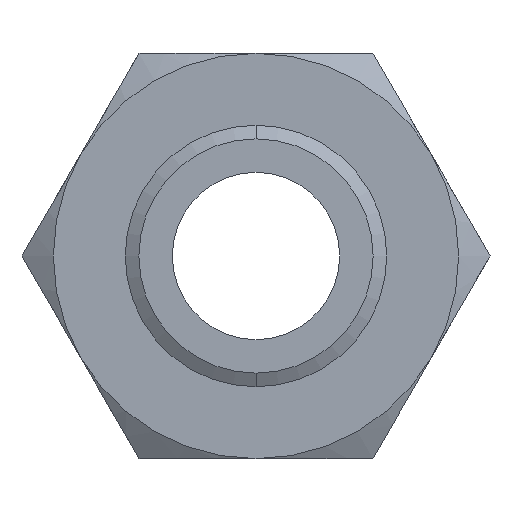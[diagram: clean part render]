
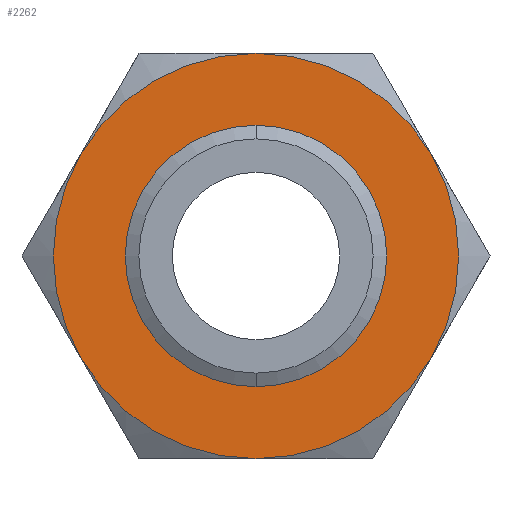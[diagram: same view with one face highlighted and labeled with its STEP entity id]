
A CAD part, front view. The second image highlights one B-rep face of the part: STEP entity #2262.
In plain terms, the highlighted planar face has unit normal (0, -1, 0).
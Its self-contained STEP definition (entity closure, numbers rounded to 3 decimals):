
#887 = CARTESIAN_POINT ( 'NONE',  ( 0., 0., 0. ) ) ;
#888 = AXIS2_PLACEMENT_3D ( 'NONE', #887, #953, #952 ) ;
#889 = CIRCLE ( 'NONE', #888, 44.804 ) ;
#890 = DIRECTION ( 'NONE',  ( 0., 0., 1. ) ) ;
#891 = DIRECTION ( 'NONE',  ( 0., 1., 0. ) ) ;
#892 = CARTESIAN_POINT ( 'NONE',  ( 0., 0., 0. ) ) ;
#893 = AXIS2_PLACEMENT_3D ( 'NONE', #892, #891, #890 ) ;
#894 = CIRCLE ( 'NONE', #893, 77.5 ) ;
#923 = DIRECTION ( 'NONE',  ( 0., 0., -1. ) ) ;
#924 = DIRECTION ( 'NONE',  ( 0., -1., 0. ) ) ;
#925 = CARTESIAN_POINT ( 'NONE',  ( 0., 0., 0. ) ) ;
#926 = AXIS2_PLACEMENT_3D ( 'NONE', #925, #924, #923 ) ;
#927 = CIRCLE ( 'NONE', #926, 44.804 ) ;
#928 = CARTESIAN_POINT ( 'NONE',  ( 0., 0., 44.804 ) ) ;
#952 = DIRECTION ( 'NONE',  ( 0., 0., -1. ) ) ;
#953 = DIRECTION ( 'NONE',  ( 0., -1., 0. ) ) ;
#984 = CARTESIAN_POINT ( 'NONE',  ( 0., 0., -44.804 ) ) ;
#1296 = CARTESIAN_POINT ( 'NONE',  ( 67.117, 0., 38.75 ) ) ;
#1297 = CARTESIAN_POINT ( 'NONE',  ( 0., 0., 77.5 ) ) ;
#1333 = CARTESIAN_POINT ( 'NONE',  ( -67.117, 0., -38.75 ) ) ;
#1339 = DIRECTION ( 'NONE',  ( 0., 0., 1. ) ) ;
#1340 = DIRECTION ( 'NONE',  ( 0., 1., 0. ) ) ;
#1341 = CARTESIAN_POINT ( 'NONE',  ( 0., 0., 0. ) ) ;
#1342 = AXIS2_PLACEMENT_3D ( 'NONE', #1341, #1340, #1339 ) ;
#1343 = CIRCLE ( 'NONE', #1342, 77.5 ) ;
#1344 = CARTESIAN_POINT ( 'NONE',  ( -67.117, 0., 38.75 ) ) ;
#1349 = DIRECTION ( 'NONE',  ( 0., 0., 1. ) ) ;
#1350 = DIRECTION ( 'NONE',  ( 0., 1., 0. ) ) ;
#1351 = CARTESIAN_POINT ( 'NONE',  ( 44.745, 0., -77.5 ) ) ;
#1353 = AXIS2_PLACEMENT_3D ( 'NONE', #1351, #1350, #1349 ) ;
#1354 = PLANE ( 'NONE',  #1353 ) ;
#1355 = FACE_BOUND ( 'NONE', #2045, .T. ) ;
#1356 = FACE_OUTER_BOUND ( 'NONE', #2264, .T. ) ;
#1368 = DIRECTION ( 'NONE',  ( 0., 0., 1. ) ) ;
#1369 = DIRECTION ( 'NONE',  ( 0., 1., 0. ) ) ;
#1370 = CARTESIAN_POINT ( 'NONE',  ( 0., 0., 0. ) ) ;
#1371 = AXIS2_PLACEMENT_3D ( 'NONE', #1370, #1369, #1368 ) ;
#1372 = CIRCLE ( 'NONE', #1371, 77.5 ) ;
#1373 = DIRECTION ( 'NONE',  ( 0., 0., 1. ) ) ;
#1374 = DIRECTION ( 'NONE',  ( 0., 1., 0. ) ) ;
#1375 = CARTESIAN_POINT ( 'NONE',  ( 0., 0., 0. ) ) ;
#1376 = AXIS2_PLACEMENT_3D ( 'NONE', #1375, #1374, #1373 ) ;
#1377 = CIRCLE ( 'NONE', #1376, 77.5 ) ;
#1378 = DIRECTION ( 'NONE',  ( 0., 0., 1. ) ) ;
#1379 = DIRECTION ( 'NONE',  ( 0., 1., 0. ) ) ;
#1380 = CARTESIAN_POINT ( 'NONE',  ( 0., 0., 0. ) ) ;
#1381 = AXIS2_PLACEMENT_3D ( 'NONE', #1380, #1379, #1378 ) ;
#1382 = CIRCLE ( 'NONE', #1381, 77.5 ) ;
#1383 = DIRECTION ( 'NONE',  ( 0., 0., 1. ) ) ;
#1384 = DIRECTION ( 'NONE',  ( 0., 1., 0. ) ) ;
#1385 = CARTESIAN_POINT ( 'NONE',  ( 0., 0., 0. ) ) ;
#1386 = AXIS2_PLACEMENT_3D ( 'NONE', #1385, #1384, #1383 ) ;
#1387 = CIRCLE ( 'NONE', #1386, 77.5 ) ;
#1388 = CARTESIAN_POINT ( 'NONE',  ( 0., 0., -77.5 ) ) ;
#1390 = CARTESIAN_POINT ( 'NONE',  ( 67.117, 0., -38.75 ) ) ;
#2045 = EDGE_LOOP ( 'NONE', ( #2047, #2052 ) ) ;
#2046 = ORIENTED_EDGE ( 'NONE', *, *, #2050, .F. ) ;
#2047 = ORIENTED_EDGE ( 'NONE', *, *, #2066, .F. ) ;
#2050 = EDGE_CURVE ( 'NONE', #2256, #2281, #894, .T. ) ;
#2052 = ORIENTED_EDGE ( 'NONE', *, *, #2054, .F. ) ;
#2054 = EDGE_CURVE ( 'NONE', #2065, #2068, #889, .T. ) ;
#2065 = VERTEX_POINT ( 'NONE', #928 ) ;
#2066 = EDGE_CURVE ( 'NONE', #2068, #2065, #927, .T. ) ;
#2068 = VERTEX_POINT ( 'NONE', #984 ) ;
#2255 = VERTEX_POINT ( 'NONE', #1297 ) ;
#2256 = VERTEX_POINT ( 'NONE', #1296 ) ;
#2259 = ORIENTED_EDGE ( 'NONE', *, *, #2265, .F. ) ;
#2262 = ADVANCED_FACE ( 'NONE', ( #1356, #1355 ), #1354, .F. ) ;
#2264 = EDGE_LOOP ( 'NONE', ( #2259, #2272, #2290, #2288, #2284, #2046 ) ) ;
#2265 = EDGE_CURVE ( 'NONE', #2255, #2256, #1343, .T. ) ;
#2266 = VERTEX_POINT ( 'NONE', #1344 ) ;
#2272 = ORIENTED_EDGE ( 'NONE', *, *, #2289, .F. ) ;
#2276 = VERTEX_POINT ( 'NONE', #1333 ) ;
#2281 = VERTEX_POINT ( 'NONE', #1390 ) ;
#2284 = ORIENTED_EDGE ( 'NONE', *, *, #2286, .F. ) ;
#2285 = VERTEX_POINT ( 'NONE', #1388 ) ;
#2286 = EDGE_CURVE ( 'NONE', #2281, #2285, #1387, .T. ) ;
#2287 = EDGE_CURVE ( 'NONE', #2285, #2276, #1382, .T. ) ;
#2288 = ORIENTED_EDGE ( 'NONE', *, *, #2287, .F. ) ;
#2289 = EDGE_CURVE ( 'NONE', #2266, #2255, #1377, .T. ) ;
#2290 = ORIENTED_EDGE ( 'NONE', *, *, #2291, .F. ) ;
#2291 = EDGE_CURVE ( 'NONE', #2276, #2266, #1372, .T. ) ;
